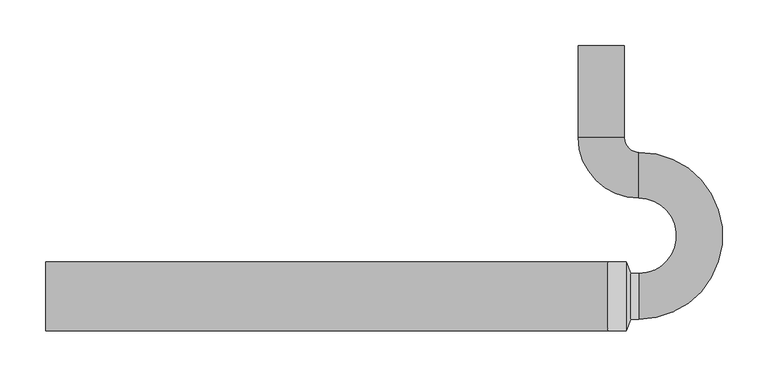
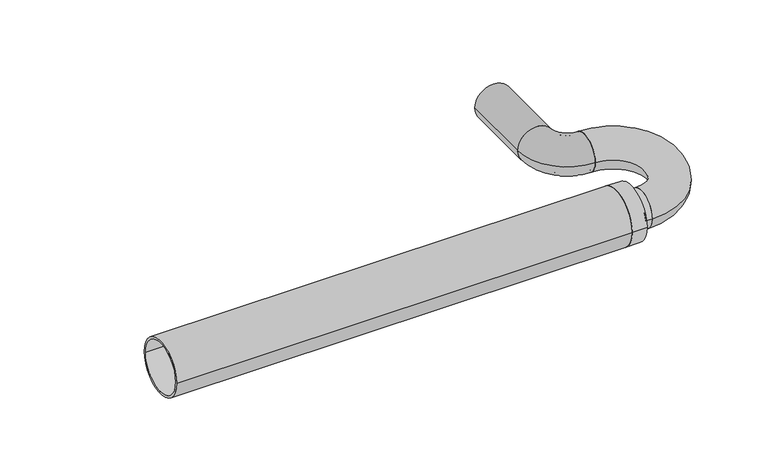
"""IFC4 building model written with IfcOpenShell, lengths in millimetres: pipe fitting geometry, Superdrain Trap : Superdrain Trap."""

from ifc_helpers import new_model, si_unit, point, frame, origin, origin_2d, place, context, project, spatial, polyline, circle_curve, ellipse_curve, trimmed, segment, composite_curve, outline, extrude, source, transform, mapped, element, save
from ifc_brep_helpers import plane_surface, cylinder_surface, revolved_surface, advanced_brep


def pipe_fitting_0eb0e26d(model_context):
    return source(origin(), model_context, "Body", "SolidModel", [
        advanced_brep(
        [(41.0, 25.0, 0.0), (41.0, -25.0, 0.0), (32.0, -25.0, 0.0), (32.0, 25.0, 0.0), (41.0, 22.0, 0.0), (41.0, -22.0, 0.0), (32.0, 22.0, 0.0), (32.0, -22.0, 0.0), (27.0, 34.5, 0.0), (27.0, -34.5, 0.0), (7.0, 34.5, 0.0), (7.0, -34.5, 0.0), (7.0, 37.5, 0.0), (7.0, -37.5, 0.0), (27.0, 37.5, 0.0), (27.0, -37.5, 0.0)],
        [
            (0, 1, circle_curve(frame((41.0, 0.0, 0.0), z_axis=(-1.0, 0.0, 0.0), x_axis=(0.0, -1.0, 0.0)), 25.0)),
            (1, 2),
            (2, 3, circle_curve(frame((32.0, 0.0, 0.0), z_axis=(1.0, 0.0, 0.0), x_axis=(0.0, -1.0, 0.0)), 25.0)),
            (3, 0),
            (1, 0, circle_curve(frame((41.0, 0.0, 0.0), z_axis=(-1.0, 0.0, 0.0), x_axis=(0.0, -1.0, 0.0)), 25.0)),
            (3, 2, circle_curve(frame((32.0, 0.0, 0.0), z_axis=(1.0, 0.0, 0.0), x_axis=(0.0, -1.0, 0.0)), 25.0)),
            (4, 5, circle_curve(frame((41.0, 0.0, 0.0), z_axis=(-1.0, 0.0, 0.0), x_axis=(0.0, -1.0, 0.0)), 22.0)),
            (5, 1),
            (0, 4),
            (5, 4, circle_curve(frame((41.0, 0.0, 0.0), z_axis=(-1.0, 0.0, 0.0), x_axis=(0.0, -1.0, 0.0)), 22.0)),
            (6, 7, circle_curve(frame((32.0, 0.0, 0.0), z_axis=(-1.0, 0.0, 0.0), x_axis=(0.0, -1.0, 0.0)), 22.0)),
            (7, 5),
            (4, 6),
            (7, 6, circle_curve(frame((32.0, 0.0, 0.0), z_axis=(-1.0, 0.0, 0.0), x_axis=(0.0, -1.0, 0.0)), 22.0)),
            (8, 9, circle_curve(frame((27.0, 0.0, 0.0), z_axis=(-1.0, 0.0, 0.0), x_axis=(0.0, -1.0, 0.0)), 34.5)),
            (9, 7),
            (6, 8),
            (9, 8, circle_curve(frame((27.0, 0.0, 0.0), z_axis=(-1.0, 0.0, 0.0), x_axis=(0.0, -1.0, 0.0)), 34.5)),
            (10, 11, circle_curve(frame((7.0, 0.0, 0.0), z_axis=(-1.0, 0.0, 0.0), x_axis=(0.0, -1.0, 0.0)), 34.5)),
            (11, 9),
            (8, 10),
            (11, 10, circle_curve(frame((7.0, 0.0, 0.0), z_axis=(-1.0, 0.0, 0.0), x_axis=(0.0, -1.0, 0.0)), 34.5)),
            (12, 13, circle_curve(frame((7.0, 0.0, 0.0), z_axis=(-1.0, 0.0, 0.0), x_axis=(0.0, -1.0, 0.0)), 37.5)),
            (13, 11),
            (10, 12),
            (13, 12, circle_curve(frame((7.0, 0.0, 0.0), z_axis=(-1.0, 0.0, 0.0), x_axis=(0.0, -1.0, 0.0)), 37.5)),
            (14, 15, circle_curve(frame((27.0, 0.0, 0.0), z_axis=(-1.0, 0.0, 0.0), x_axis=(0.0, -1.0, 0.0)), 37.5)),
            (15, 13),
            (12, 14),
            (15, 14, circle_curve(frame((27.0, 0.0, 0.0), z_axis=(-1.0, 0.0, 0.0), x_axis=(0.0, -1.0, 0.0)), 37.5)),
            (2, 15),
            (14, 3),
        ],
        [
            cylinder_surface(frame((76.0, 0.0, 0.0), z_axis=(1.0, 0.0, 0.0), x_axis=(0.0, -1.0, 0.0)), 25.0),
            plane_surface(frame((41.0, 0.0, 0.0), z_axis=(1.0, 0.0, 0.0), x_axis=(0.0, -1.0, 0.0))),
            revolved_surface(polyline([(41.0, -22.0, 0.0), (32.0, -22.0, 0.0)]), (76.0, 0.0, 0.0), (1.0, 0.0, 0.0)),
            revolved_surface(polyline([(32.0, -22.0, 0.0), (27.0, -34.5, 0.0)]), (76.0, 0.0, 0.0), (1.0, 0.0, 0.0)),
            revolved_surface(polyline([(27.0, -34.5, 0.0), (7.0, -34.5, 0.0)]), (76.0, 0.0, 0.0), (1.0, 0.0, 0.0)),
            plane_surface(frame((7.0, 0.0, 0.0), z_axis=(-1.0, 0.0, 0.0), x_axis=(0.0, -1.0, 0.0))),
            cylinder_surface(frame((76.0, 0.0, 0.0), z_axis=(1.0, 0.0, 0.0), x_axis=(0.0, -1.0, 0.0)), 37.5),
            revolved_surface(polyline([(27.0, -37.5, 0.0), (32.0, -25.0, 0.0)]), (76.0, 0.0, 0.0), (1.0, 0.0, 0.0)),
        ],
        [
            (0, [[1, 2, 3, 4]]),
            (0, [[5, -4, 6, -2]]),
            (1, [[7, 8, -1, 9]]),
            (1, [[10, -9, -5, -8]]),
            (2, [[11, 12, -7, 13]]),
            (2, [[14, -13, -10, -12]]),
            (3, [[15, 16, -11, 17]]),
            (3, [[18, -17, -14, -16]]),
            (4, [[19, 20, -15, 21]]),
            (4, [[22, -21, -18, -20]]),
            (5, [[23, 24, -19, 25]]),
            (5, [[26, -25, -22, -24]]),
            (6, [[27, 28, -23, 29]]),
            (6, [[30, -29, -26, -28]]),
            (7, [[-3, 31, -27, 32]]),
            (7, [[-6, -32, -30, -31]]),
        ],
    ),
        advanced_brep(
        [(41.0, 107.0, 0.0), (41.0, 157.0, 0.0), (41.0, 110.0, 0.0), (41.0, 154.0, 0.0), (41.0, 25.0, 0.0), (41.0, -25.0, 0.0), (41.0, 22.0, 0.0), (41.0, -22.0, 0.0)],
        [
            (0, 1, circle_curve(frame((41.0, 132.0, 0.0), z_axis=(-1.0, 0.0, 0.0), x_axis=(0.0, 1.0, 0.0)), 25.0)),
            (1, 0, circle_curve(frame((41.0, 132.0, 0.0), z_axis=(-1.0, 0.0, 0.0), x_axis=(0.0, 1.0, 0.0)), 25.0)),
            (2, 3, circle_curve(frame((41.0, 132.0, 0.0), z_axis=(1.0, 0.0, 0.0), x_axis=(0.0, 1.0, 0.0)), 22.0)),
            (3, 2, circle_curve(frame((41.0, 132.0, 0.0), z_axis=(1.0, 0.0, 0.0), x_axis=(0.0, 1.0, 0.0)), 22.0)),
            (4, 5, circle_curve(frame((41.0, 0.0, 0.0), z_axis=(-1.0, 0.0, 0.0), x_axis=(0.0, -1.0, 0.0)), 25.0)),
            (5, 4, circle_curve(frame((41.0, 0.0, 0.0), z_axis=(-1.0, 0.0, 0.0), x_axis=(0.0, -1.0, 0.0)), 25.0)),
            (6, 7, circle_curve(frame((41.0, 0.0, 0.0), z_axis=(1.0, 0.0, 0.0), x_axis=(0.0, -1.0, 0.0)), 22.0)),
            (7, 6, circle_curve(frame((41.0, 0.0, 0.0), z_axis=(1.0, 0.0, 0.0), x_axis=(0.0, -1.0, 0.0)), 22.0)),
            (7, 3, circle_curve(frame((41.0, 66.0, 0.0), z_axis=(0.0, 0.0, 1.0), x_axis=(0.0, 1.0, 0.0)), 88.0)),
            (2, 6, circle_curve(frame((41.0, 66.0, 0.0), z_axis=(0.0, 0.0, -1.0), x_axis=(0.0, 1.0, 0.0)), 44.0)),
            (5, 1, circle_curve(frame((41.0, 66.0, 0.0), z_axis=(0.0, 0.0, 1.0), x_axis=(0.0, 1.0, 0.0)), 91.0)),
            (0, 4, circle_curve(frame((41.0, 66.0, 0.0), z_axis=(0.0, 0.0, -1.0), x_axis=(0.0, 1.0, 0.0)), 41.0)),
        ],
        [
            plane_surface(frame((41.0, 132.0, 0.0), z_axis=(-1.0, 0.0, 0.0), x_axis=(0.0, 0.0, 1.0))),
            plane_surface(frame((41.0, 0.0, 0.0), z_axis=(-1.0, 0.0, 0.0), x_axis=(0.0, 0.0, 1.0))),
            revolved_surface(trimmed(ellipse_curve(frame((41.0, 132.0, 0.0), z_axis=(1.0, 0.0, 0.0), x_axis=(0.0, 1.0, 0.0)), 22.0, 22.0), [point((41.0, 110.0, 0.0))], [point((41.0, 154.0, 0.0))], True, "CARTESIAN"), (41.0, 66.0, 0.0), (0.0, 0.0, -1.0)),
            revolved_surface(trimmed(ellipse_curve(frame((41.0, 132.0, 0.0), z_axis=(1.0, 0.0, 0.0), x_axis=(0.0, 1.0, 0.0)), 22.0, 22.0), [point((41.0, 154.0, 0.0))], [point((41.0, 110.0, 0.0))], True, "CARTESIAN"), (41.0, 66.0, 0.0), (0.0, 0.0, -1.0)),
            revolved_surface(trimmed(ellipse_curve(frame((41.0, 132.0, 0.0), z_axis=(-1.0, 0.0, 0.0), x_axis=(0.0, 1.0, 0.0)), 25.0, 25.0), [point((41.0, 107.0, 0.0))], [point((41.0, 157.0, 0.0))], True, "CARTESIAN"), (41.0, 66.0, 0.0), (0.0, 0.0, -1.0)),
            revolved_surface(trimmed(ellipse_curve(frame((41.0, 132.0, 0.0), z_axis=(-1.0, 0.0, 0.0), x_axis=(0.0, 1.0, 0.0)), 25.0, 25.0), [point((41.0, 157.0, 0.0))], [point((41.0, 107.0, 0.0))], True, "CARTESIAN"), (41.0, 66.0, 0.0), (0.0, 0.0, -1.0)),
        ],
        [
            (0, [[1, 2], [3, 4]]),
            (1, [[5, 6], [7, 8]]),
            (2, [[9, -3, 10, -8]]),
            (3, [[-10, -4, -9, -7]]),
            (4, [[11, -1, 12, -6]]),
            (5, [[-12, -2, -11, -5]]),
        ],
    ),
        advanced_brep(
        [(-25.0, 173.0, 0.0), (25.0, 173.0, 0.0), (-22.0, 173.0, 0.0), (22.0, 173.0, 0.0), (41.0, 107.0, 0.0), (41.0, 157.0, 0.0), (41.0, 110.0, 0.0), (41.0, 154.0, 0.0)],
        [
            (0, 1, circle_curve(frame((0.0, 173.0, 0.0), z_axis=(0.0, 1.0, 0.0), x_axis=(1.0, 0.0, 0.0)), 25.0)),
            (1, 0, circle_curve(frame((0.0, 173.0, 0.0), z_axis=(0.0, 1.0, 0.0), x_axis=(1.0, 0.0, 0.0)), 25.0)),
            (2, 3, circle_curve(frame((0.0, 173.0, 0.0), z_axis=(0.0, -1.0, 0.0), x_axis=(1.0, 0.0, 0.0)), 22.0)),
            (3, 2, circle_curve(frame((0.0, 173.0, 0.0), z_axis=(0.0, -1.0, 0.0), x_axis=(1.0, 0.0, 0.0)), 22.0)),
            (4, 5, circle_curve(frame((41.0, 132.0, 0.0), z_axis=(1.0, 0.0, 0.0), x_axis=(0.0, 1.0, 0.0)), 25.0)),
            (5, 4, circle_curve(frame((41.0, 132.0, 0.0), z_axis=(1.0, 0.0, 0.0), x_axis=(0.0, 1.0, 0.0)), 25.0)),
            (6, 7, circle_curve(frame((41.0, 132.0, 0.0), z_axis=(-1.0, 0.0, 0.0), x_axis=(0.0, 1.0, 0.0)), 22.0)),
            (7, 6, circle_curve(frame((41.0, 132.0, 0.0), z_axis=(-1.0, 0.0, 0.0), x_axis=(0.0, 1.0, 0.0)), 22.0)),
            (5, 1, circle_curve(frame((41.0, 173.0, 0.0), z_axis=(0.0, 0.0, -1.0), x_axis=(-1.0, 0.0, 0.0)), 16.0)),
            (0, 4, circle_curve(frame((41.0, 173.0, 0.0), z_axis=(0.0, 0.0, 1.0), x_axis=(-1.0, 0.0, 0.0)), 66.0)),
            (7, 3, circle_curve(frame((41.0, 173.0, 0.0), z_axis=(0.0, 0.0, -1.0), x_axis=(-1.0, 0.0, 0.0)), 19.0)),
            (2, 6, circle_curve(frame((41.0, 173.0, 0.0), z_axis=(0.0, 0.0, 1.0), x_axis=(-1.0, 0.0, 0.0)), 63.0)),
        ],
        [
            plane_surface(frame((0.0, 173.0, 0.0), z_axis=(0.0, 1.0, 0.0), x_axis=(0.0, 0.0, 1.0))),
            plane_surface(frame((41.0, 132.0, 0.0), z_axis=(1.0, 0.0, 0.0), x_axis=(0.0, 0.0, 1.0))),
            revolved_surface(trimmed(ellipse_curve(frame((0.0, 173.0, 0.0), z_axis=(0.0, 1.0, 0.0), x_axis=(1.0, 0.0, 0.0)), 25.0, 25.0), [point((-25.0, 173.0, 0.0))], [point((25.0, 173.0, 0.0))], True, "CARTESIAN"), (41.0, 173.0, 0.0), (0.0, 0.0, 1.0)),
            revolved_surface(trimmed(ellipse_curve(frame((0.0, 173.0, 0.0), z_axis=(0.0, 1.0, 0.0), x_axis=(1.0, 0.0, 0.0)), 25.0, 25.0), [point((25.0, 173.0, 0.0))], [point((-25.0, 173.0, 0.0))], True, "CARTESIAN"), (41.0, 173.0, 0.0), (0.0, 0.0, 1.0)),
            revolved_surface(trimmed(ellipse_curve(frame((0.0, 173.0, 0.0), z_axis=(0.0, -1.0, 0.0), x_axis=(1.0, 0.0, 0.0)), 22.0, 22.0), [point((-22.0, 173.0, 0.0))], [point((22.0, 173.0, 0.0))], True, "CARTESIAN"), (41.0, 173.0, 0.0), (0.0, 0.0, 1.0)),
            revolved_surface(trimmed(ellipse_curve(frame((0.0, 173.0, 0.0), z_axis=(0.0, -1.0, 0.0), x_axis=(1.0, 0.0, 0.0)), 22.0, 22.0), [point((22.0, 173.0, 0.0))], [point((-22.0, 173.0, 0.0))], True, "CARTESIAN"), (41.0, 173.0, 0.0), (0.0, 0.0, 1.0)),
        ],
        [
            (0, [[1, 2], [3, 4]]),
            (1, [[5, 6], [7, 8]]),
            (2, [[9, -1, 10, -6]]),
            (3, [[-10, -2, -9, -5]]),
            (4, [[11, -3, 12, -8]]),
            (5, [[-12, -4, -11, -7]]),
        ],
    ),
        extrude(outline(composite_curve([segment(trimmed(circle_curve(origin_2d(), 37.5), [point((37.5, 0.0))], [point((-37.5, 0.0))], False, "CARTESIAN"), True, "CONTINUOUS"), segment(trimmed(circle_curve(origin_2d(), 37.5), [point((-37.5, 0.0))], [point((37.5, 0.0))], False, "CARTESIAN"), True, "CONTINUOUS")], self_intersect=False), holes=[composite_curve([segment(trimmed(circle_curve(origin_2d(), 34.5), [point((34.5, 0.0))], [point((-34.5, 0.0))], True, "CARTESIAN"), True, "CONTINUOUS"), segment(trimmed(circle_curve(origin_2d(), 34.5), [point((-34.5, 0.0))], [point((34.5, 0.0))], True, "CARTESIAN"), True, "CONTINUOUS")], self_intersect=False)]), frame((-604.5, 0.0, 0.0), z_axis=(1.0, 0.0, 0.0), x_axis=(0.0, 1.0, 0.0)), (0.0, 0.0, 1.0), 611.5),
        extrude(outline(composite_curve([segment(trimmed(circle_curve(origin_2d(), 25.0), [point((0.0, 25.0))], [point((0.0, -25.0))], False, "CARTESIAN"), True, "CONTINUOUS"), segment(trimmed(circle_curve(origin_2d(), 25.0), [point((0.0, -25.0))], [point((0.0, 25.0))], False, "CARTESIAN"), True, "CONTINUOUS")], self_intersect=False), holes=[composite_curve([segment(trimmed(circle_curve(origin_2d(), 22.0), [point((0.0, 22.0))], [point((0.0, -22.0))], True, "CARTESIAN"), True, "CONTINUOUS"), segment(trimmed(circle_curve(origin_2d(), 22.0), [point((0.0, -22.0))], [point((0.0, 22.0))], True, "CARTESIAN"), True, "CONTINUOUS")], self_intersect=False)]), frame((0.0, 173.0, 0.0), z_axis=(0.0, 1.0, 0.0), x_axis=(0.0, 0.0, 1.0)), (0.0, 0.0, 1.0), 100.0),
    ])


if __name__ == "__main__":
    model = new_model("IFC4")
    model_context = context("Model", 3, world=origin())
    ifc_project = project(units=[si_unit("LENGTHUNIT", "METRE", prefix="MILLI")], contexts=[model_context])
    site = spatial("IfcSite", under=ifc_project)
    building = spatial("IfcBuilding", under=site)
    placement = place(None, origin())
    pipe_fitting_shape = pipe_fitting_0eb0e26d(model_context)
    element("IfcPipeFitting", 1, ObjectType="Superdrain Trap : Superdrain Trap", at=placement, inside=building, context=model_context, shape_type="MappedRepresentation", body=[
        mapped(pipe_fitting_shape, transform((0.0, 0.0, 0.0), x_axis=(1.0, 0.0, 0.0), y_axis=(0.0, 1.0, 0.0), z_axis=(0.0, 0.0, 1.0))),
    ])
    save(model, "model.ifc")
